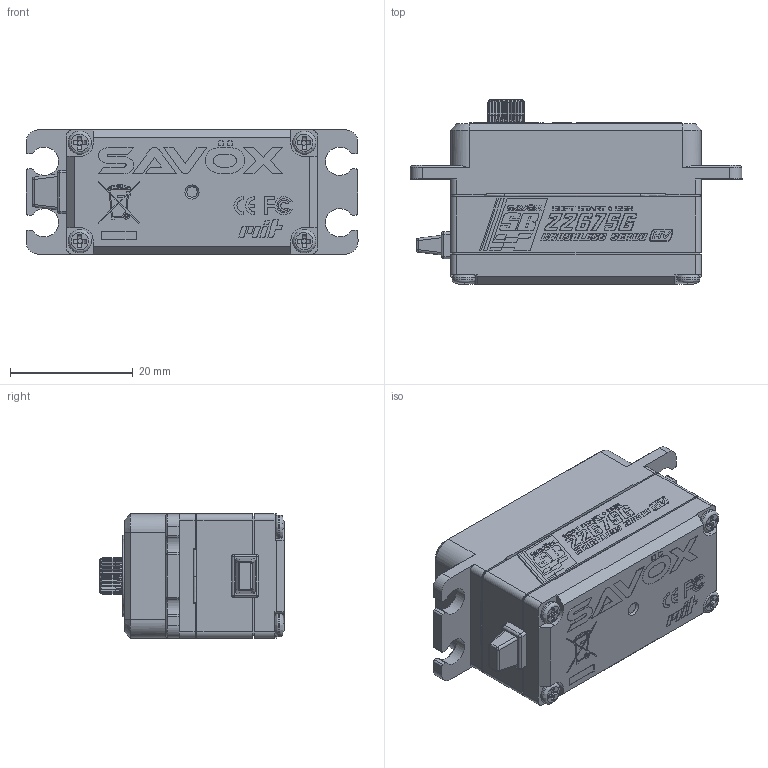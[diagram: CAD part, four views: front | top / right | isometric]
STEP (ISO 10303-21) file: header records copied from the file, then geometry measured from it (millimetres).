
FILE_DESCRIPTION (( 'STEP AP214' ), '1' );
FILE_NAME ('SB-2267SG_3D??.STEP', '2025-04-15T12:33:26', ( '' ), ( '' ), 'SwSTEP 2.0', 'SolidWorks 2024', '' );
FILE_SCHEMA (( 'AUTOMOTIVE_DESIGN' ));
Length unit declared in the file: millimetre
Products named in the file (1): SB-2267SG_3D零件
Bounding box: 54 x 30.1 x 20.2 mm (x, y, z)
Volume: 21846.1 mm3; surface area: 5720.4 mm2
Topology: 1 solids, 1 shells, 983 faces, 5084 edges, 4267 vertices
Faces by surface type: plane 572, cylinder 238, cone 105, bspline 68
Full cylindrical faces by diameter (mm): 0.37 x1, 0.598 x1, 2.5 x1, 3.15 x1, 3.8 x4, 6.1 x1, 12 x1
Entity records: 67584 total; most frequent: CARTESIAN_POINT 18131, ORIENTED_EDGE 10064, DIRECTION 5720, EDGE_CURVE 5032, VERTEX_POINT 4259, VECTOR 2814, LINE 2814, B_SPLINE_CURVE_WITH_KNOTS 1639
